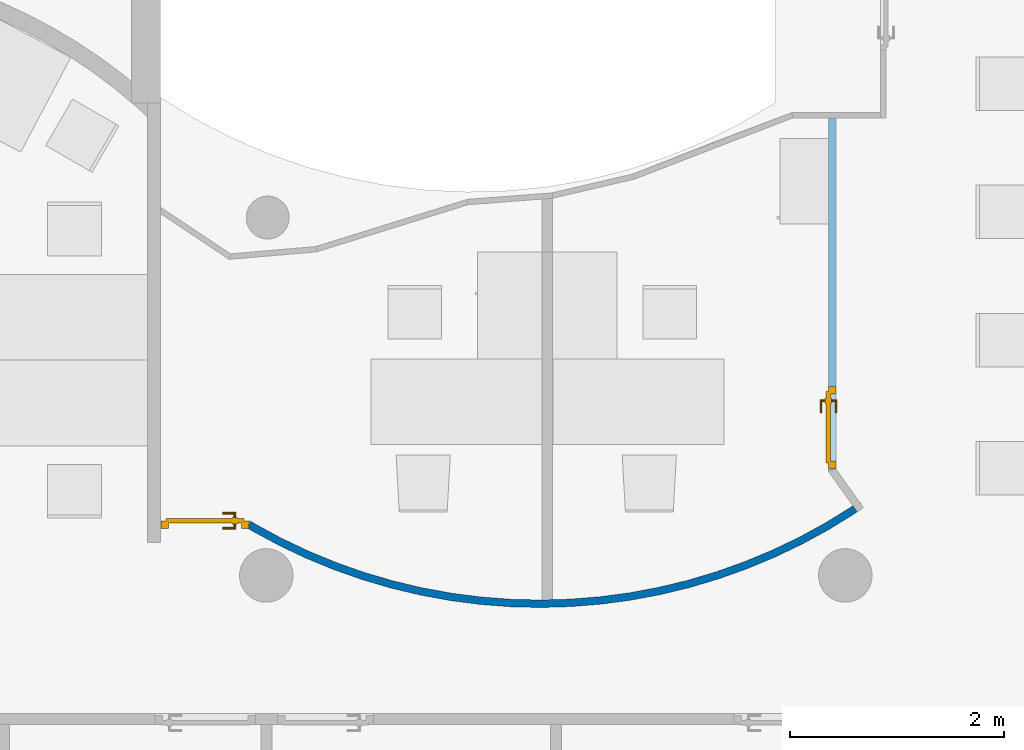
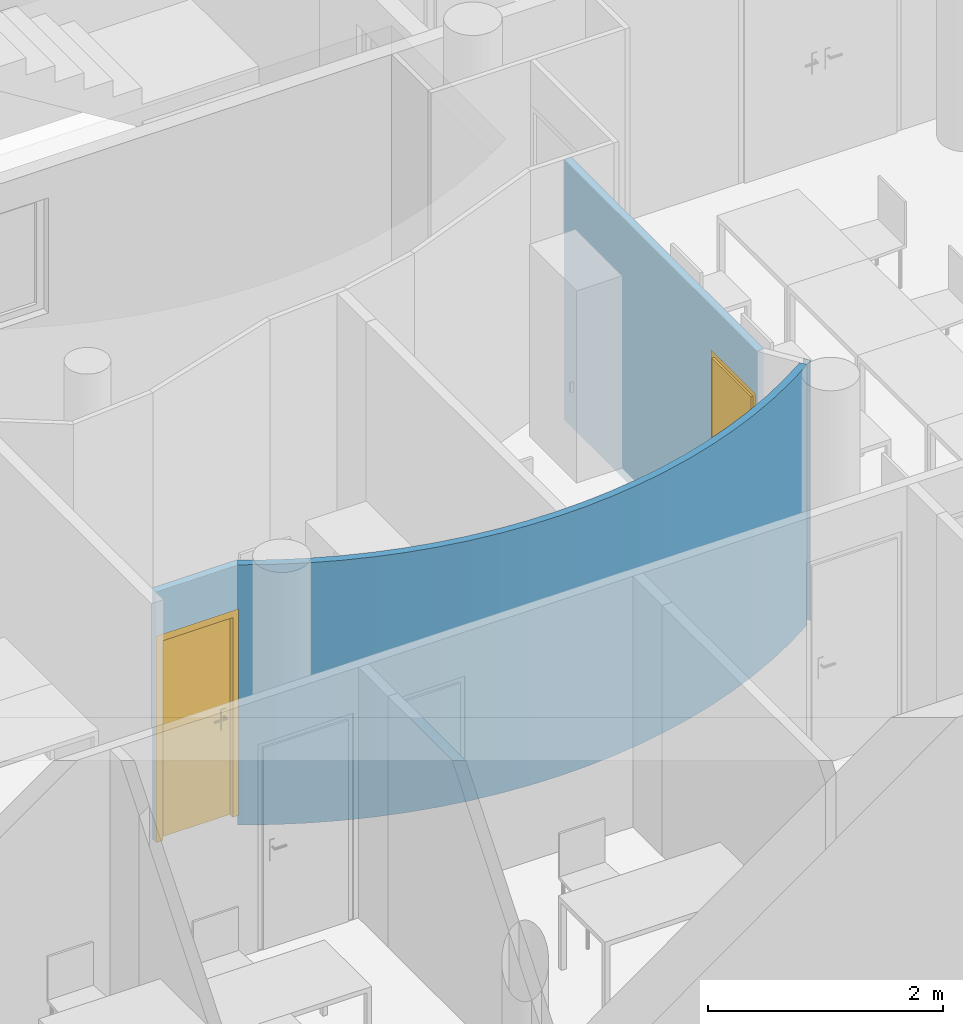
"""IFC4 building model written with IfcOpenShell, lengths in metres."""

from ifc_helpers import new_model, entity, si_unit, converted_unit, derived_unit, frame, origin, origin_with_axes, place, context, subcontext, project, spatial, polyline, outline, extrude, faceted_brep, source, transform, mapped, material, layer, layer_set, layer_usage, element, fill, save


model = new_model("IFC4")

# Units and contexts
model_context = context("Model", 3, precision=1e-05, world=origin())
body_context = subcontext(model_context, "Body", "Model", "MODEL_VIEW")
ifc_project = project(units=[si_unit("LENGTHUNIT", "METRE"), si_unit("AREAUNIT", "SQUARE_METRE"), si_unit("VOLUMEUNIT", "CUBIC_METRE"), si_unit("MASSUNIT", "GRAM", prefix="KILO"), converted_unit("PLANEANGLEUNIT", "DEGREE", entity("IfcPlaneAngleMeasure", 0.0174532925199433), si_unit("PLANEANGLEUNIT", "RADIAN"), dimensions=[0, 0, 0, 0, 0, 0, 0]), derived_unit("THERMALTRANSMITTANCEUNIT", [(si_unit("POWERUNIT", "WATT"), 1), (si_unit("THERMODYNAMICTEMPERATUREUNIT", "KELVIN"), -1), (si_unit("LENGTHUNIT", "METRE"), -2)]), derived_unit("VOLUMETRICFLOWRATEUNIT", [(si_unit("LENGTHUNIT", "METRE"), 3), (converted_unit("TIMEUNIT", "hour", entity("IfcTimeMeasure", 3600.0), si_unit("TIMEUNIT", "SECOND"), dimensions=[0, 0, 1, 0, 0, 0, 0]), -1), (si_unit("LENGTHUNIT", "METRE"), -1)])], contexts=[model_context])

# Building, storeys
building_placement = place(None, origin())
building = spatial("IfcBuilding", under=ifc_project, at=building_placement, Name="HABITATGE PLURIFAMILIAR", CompositionType="ELEMENT")
storey_1_placement = place(building_placement, frame((0.0, 0.0, 6.25)))
storey_1 = spatial("IfcBuildingStorey", under=building, at=storey_1_placement, Name="PLANTA PRIMERA", CompositionType="ELEMENT", Elevation=6.25)
storey_2_placement = place(storey_1_placement, frame((0.0, 0.0, 3.35)))
storey_2 = spatial("IfcBuildingStorey", under=storey_1, at=storey_2_placement, Name="NOU", CompositionType="PARTIAL")

# Wall, opening, door
ifc_material_1 = material()
ifc_layer_1 = layer(ifc_material_1, 0.07)
ifc_layer_set_1 = layer_set([ifc_layer_1])
ifc_layer_usage_1 = layer_usage(ifc_layer_set_1, "AXIS2", "POSITIVE", 0.0)
wall_1_placement = place(storey_2_placement, frame((410.592735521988, 18.3095984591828, -3.35), z_axis=(0.0, 0.0, 1.0), x_axis=(-1.0, 0.0, 0.0)))
wall_1 = element("IfcWall", 1, at=wall_1_placement, inside=storey_2, material=ifc_layer_usage_1, Name="Envans P1", context=body_context, shape_type="SweptSolid", body=[
    extrude(outline(polyline([(-0.845750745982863, -0.07), (0.0, -0.07), (0.0, 0.0), (-0.80460284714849, 0.0), (-0.845750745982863, -0.07)])), frame((0.845750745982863, 0.07, 0.0), z_axis=(0.0, 0.0, 1.0), x_axis=(1.0, 0.0, 0.0)), (0.0, 0.0, 1.0), 2.61),
])
opening_1_placement = place(wall_1_placement, frame((0.843483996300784, 0.07, 0.0), z_axis=(0.0, -1.0, 0.0), x_axis=(0.0, 0.0, 1.0)))
opening_1 = element("IfcOpeningElement", 2, at=opening_1_placement, cuts=wall_1, Name="Vano de puerta P1", ObjectType="Opening", context=body_context, shape_type="SweptSolid", body=[
    extrude(outline(polyline([(2.15, 0.825227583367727), (2.15, 0.0), (0.0, 0.0), (0.0, 0.825227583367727), (2.15, 0.825227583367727)])), origin_with_axes(), (0.0, 0.0, 1.0), 0.07),
])
shared_shape_1 = source(origin_with_axes(), body_context, "Body", "Brep", [
    faceted_brep([(0.825227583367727, 0.07, 2.15), (0.755227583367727, 0.07, 2.15), (0.755227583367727, 0.07, 0.0), (0.825227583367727, 0.07, 0.0), (0.825227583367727, 0.0, 0.0), (0.755227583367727, 0.0, 0.0), (0.755227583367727, 0.0, 2.15), (0.825227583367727, 0.0, 2.15)], [[[0, 1, 2, 3]], [[4, 5, 6, 7]], [[3, 4, 7, 0]], [[2, 5, 4, 3]], [[1, 6, 5, 2]], [[0, 7, 6, 1]]], orient=[[False], [False], [False], [False], [False], [False]]),
    faceted_brep([(0.07, 0.07, 2.15), (0.0, 0.07, 2.15), (0.0, 0.07, 0.0), (0.07, 0.07, 0.0), (0.07, 0.0, 0.0), (0.0, 0.0, 0.0), (0.0, 0.0, 2.15), (0.07, 0.0, 2.15)], [[[0, 1, 2, 3]], [[4, 5, 6, 7]], [[3, 4, 7, 0]], [[2, 5, 4, 3]], [[1, 6, 5, 2]], [[0, 7, 6, 1]]], orient=[[False], [False], [False], [False], [False], [False]]),
    faceted_brep([(0.755227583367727, 0.07, 2.15), (0.07, 0.07, 2.15), (0.07, 0.07, 2.08), (0.755227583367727, 0.07, 2.08), (0.755227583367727, 0.0, 2.08), (0.07, 0.0, 2.08), (0.07, 0.0, 2.15), (0.755227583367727, 0.0, 2.15)], [[[0, 1, 2, 3]], [[4, 5, 6, 7]], [[3, 4, 7, 0]], [[2, 5, 4, 3]], [[1, 6, 5, 2]], [[0, 7, 6, 1]]], orient=[[False], [False], [False], [False], [False], [False]]),
    faceted_brep([(0.775227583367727, 0.09, 2.1), (0.05, 0.09, 2.1), (0.05, 0.09, 0.0), (0.775227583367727, 0.09, 0.0), (0.775227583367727, 0.05, 0.0), (0.05, 0.05, 0.0), (0.05, 0.05, 2.1), (0.775227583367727, 0.05, 2.1)], [[[0, 1, 2, 3]], [[4, 5, 6, 7]], [[3, 4, 7, 0]], [[2, 5, 4, 3]], [[1, 6, 5, 2]], [[0, 7, 6, 1]]], orient=[[False], [False], [False], [False], [False], [False]]),
    faceted_brep([(0.715227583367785, 0.05, 1.125), (0.665227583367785, 0.05, 1.125), (0.665227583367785, 0.05, 0.91), (0.715227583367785, 0.05, 0.91), (0.715227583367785, 0.04, 0.91), (0.665227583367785, 0.04, 0.91), (0.665227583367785, 0.04, 1.125), (0.715227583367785, 0.04, 1.125)], [[[0, 1, 2, 3]], [[4, 5, 6, 7]], [[3, 4, 7, 0]], [[2, 5, 4, 3]], [[1, 6, 5, 2]], [[0, 7, 6, 1]]], orient=[[False], [False], [False], [False], [False], [False]]),
    faceted_brep([(0.690227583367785, 0.04, 1.06), (0.685227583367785, 0.04, 1.05866025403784), (0.681567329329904, 0.04, 1.055), (0.680227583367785, 0.04, 1.05), (0.681567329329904, 0.04, 1.045), (0.685227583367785, 0.04, 1.04133974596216), (0.690227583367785, 0.04, 1.04), (0.695227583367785, 0.04, 1.04133974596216), (0.698887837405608, 0.04, 1.045), (0.700227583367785, 0.04, 1.05), (0.698887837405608, 0.04, 1.055), (0.695227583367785, 0.04, 1.05866025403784), (0.695227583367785, -0.005, 1.05866025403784), (0.690227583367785, 0.0, 1.06), (0.698887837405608, -0.00866025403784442, 1.055), (0.700227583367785, -0.01, 1.05), (0.698887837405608, -0.00866025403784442, 1.045), (0.695227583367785, -0.005, 1.04133974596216), (0.690227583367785, 0.0, 1.04), (0.685227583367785, 0.005, 1.04133974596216), (0.681567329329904, 0.00866025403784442, 1.045), (0.680227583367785, 0.01, 1.05), (0.681567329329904, 0.00866025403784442, 1.055), (0.685227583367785, 0.005, 1.05866025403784), (0.575227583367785, 0.0, 1.06), (0.575227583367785, -0.005, 1.05866025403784), (0.575227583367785, -0.00866025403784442, 1.055), (0.575227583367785, -0.01, 1.05), (0.575227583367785, -0.00866025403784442, 1.045), (0.575227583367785, -0.005, 1.04133974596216), (0.575227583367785, 0.0, 1.04), (0.575227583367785, 0.005, 1.04133974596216), (0.575227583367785, 0.00866025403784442, 1.045), (0.575227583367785, 0.01, 1.05), (0.575227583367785, 0.00866025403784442, 1.055), (0.575227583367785, 0.005, 1.05866025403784)], [[[0, 1, 2, 3, 4, 5, 6, 7, 8, 9, 10, 11]], [[0, 11, 12, 13]], [[11, 10, 14, 12]], [[10, 9, 15, 14]], [[9, 8, 16, 15]], [[8, 7, 17, 16]], [[7, 6, 18, 17]], [[6, 5, 19, 18]], [[5, 4, 20, 19]], [[4, 3, 21, 20]], [[3, 2, 22, 21]], [[2, 1, 23, 22]], [[1, 0, 13, 23]], [[24, 25, 26, 27, 28, 29, 30, 31, 32, 33, 34, 35]], [[13, 12, 25, 24]], [[12, 14, 26, 25]], [[14, 15, 27, 26]], [[15, 16, 28, 27]], [[16, 17, 29, 28]], [[17, 18, 30, 29]], [[18, 19, 31, 30]], [[19, 20, 32, 31]], [[20, 21, 33, 32]], [[21, 22, 34, 33]], [[22, 23, 35, 34]], [[23, 13, 24, 35]]], orient=[[False], [False], [False], [False], [False], [False], [False], [False], [False], [False], [False], [False], [False], [False], [False], [False], [False], [False], [False], [False], [False], [False], [False], [False], [False], [False]]),
    faceted_brep([(0.715227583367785, 0.09, 1.125), (0.715227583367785, 0.09, 0.91), (0.665227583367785, 0.09, 0.91), (0.665227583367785, 0.09, 1.125), (0.715227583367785, 0.1, 0.91), (0.715227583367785, 0.1, 1.125), (0.665227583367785, 0.1, 1.125), (0.665227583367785, 0.1, 0.91)], [[[0, 1, 2, 3]], [[4, 5, 6, 7]], [[1, 0, 5, 4]], [[2, 1, 4, 7]], [[3, 2, 7, 6]], [[0, 3, 6, 5]]], orient=[[False], [False], [False], [False], [False], [False]]),
    faceted_brep([(0.690227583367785, 0.1, 1.06), (0.695227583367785, 0.1, 1.05866025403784), (0.698887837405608, 0.1, 1.055), (0.700227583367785, 0.1, 1.05), (0.698887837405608, 0.1, 1.045), (0.695227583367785, 0.1, 1.04133974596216), (0.690227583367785, 0.1, 1.04), (0.685227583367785, 0.1, 1.04133974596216), (0.681567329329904, 0.1, 1.045), (0.680227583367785, 0.1, 1.05), (0.681567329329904, 0.1, 1.055), (0.685227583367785, 0.1, 1.05866025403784), (0.690227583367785, 0.14, 1.06), (0.695227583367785, 0.145, 1.05866025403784), (0.698887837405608, 0.148660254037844, 1.055), (0.700227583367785, 0.15, 1.05), (0.698887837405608, 0.148660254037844, 1.045), (0.695227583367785, 0.145, 1.04133974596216), (0.690227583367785, 0.14, 1.04), (0.685227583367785, 0.135, 1.04133974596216), (0.681567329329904, 0.131339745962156, 1.045), (0.680227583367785, 0.13, 1.05), (0.681567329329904, 0.131339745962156, 1.055), (0.685227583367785, 0.135, 1.05866025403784), (0.575227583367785, 0.14, 1.06), (0.575227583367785, 0.135, 1.05866025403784), (0.575227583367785, 0.131339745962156, 1.055), (0.575227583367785, 0.13, 1.05), (0.575227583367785, 0.131339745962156, 1.045), (0.575227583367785, 0.135, 1.04133974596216), (0.575227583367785, 0.14, 1.04), (0.575227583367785, 0.145, 1.04133974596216), (0.575227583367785, 0.148660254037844, 1.045), (0.575227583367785, 0.15, 1.05), (0.575227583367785, 0.148660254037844, 1.055), (0.575227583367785, 0.145, 1.05866025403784)], [[[0, 1, 2, 3, 4, 5, 6, 7, 8, 9, 10, 11]], [[0, 12, 13, 1]], [[1, 13, 14, 2]], [[2, 14, 15, 3]], [[3, 15, 16, 4]], [[4, 16, 17, 5]], [[5, 17, 18, 6]], [[6, 18, 19, 7]], [[7, 19, 20, 8]], [[8, 20, 21, 9]], [[9, 21, 22, 10]], [[10, 22, 23, 11]], [[11, 23, 12, 0]], [[24, 25, 26, 27, 28, 29, 30, 31, 32, 33, 34, 35]], [[12, 24, 35, 13]], [[13, 35, 34, 14]], [[14, 34, 33, 15]], [[15, 33, 32, 16]], [[16, 32, 31, 17]], [[17, 31, 30, 18]], [[18, 30, 29, 19]], [[19, 29, 28, 20]], [[20, 28, 27, 21]], [[21, 27, 26, 22]], [[22, 26, 25, 23]], [[23, 25, 24, 12]]], orient=[[False], [False], [False], [False], [False], [False], [False], [False], [False], [False], [False], [False], [False], [False], [False], [False], [False], [False], [False], [False], [False], [False], [False], [False], [False], [False]]),
])
door_1_placement = place(opening_1_placement, frame((0.0, 0.0, 0.0), z_axis=(1.0, 0.0, 0.0), x_axis=(0.0, 1.0, 0.0)))
door_1 = element("IfcDoor", 3, at=door_1_placement, inside=storey_2, Name="Porta P1", OperationType="USERDEFINED", OverallHeight=2.15, OverallWidth=0.82523, PredefinedType="DOOR", context=body_context, shape_type="MappedRepresentation", body=[
    mapped(shared_shape_1, transform((0.0, 0.0, 0.0), x_axis=(1.0, 0.0, 0.0), y_axis=(0.0, 1.0, 0.0), z_axis=(0.0, 0.0, 1.0), scale=1.0)),
])
fill(opening_1, door_1)

ifc_material_2 = material()
ifc_layer_2 = layer(ifc_material_2, 0.0700000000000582)
ifc_layer_set_2 = layer_set([ifc_layer_2])
ifc_layer_usage_2 = layer_usage(ifc_layer_set_2, "AXIS2", "POSITIVE", 0.0)
wall_2_placement = place(storey_2_placement, frame((416.048400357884, 18.7948357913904, -3.45), z_axis=(0.0, 0.0, 1.0), x_axis=(0.0, 1.0, 0.0)))
wall_2 = element("IfcWall", 4, at=wall_2_placement, inside=storey_2, material=ifc_layer_usage_2, Name="Envans P1", context=body_context, shape_type="SweptSolid", body=[
    extrude(outline(polyline([(0.0223693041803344, -0.0700000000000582), (3.29699337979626, -0.0700000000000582), (3.29699337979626, 0.0), (0.0, 0.0), (0.0223693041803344, -0.0700000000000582)])), frame((-0.0223693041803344, 0.0700000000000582, 0.0), z_axis=(0.0, 0.0, 1.0), x_axis=(1.0, 0.0, 0.0)), (0.0, 0.0, 1.0), 2.71),
])
opening_2_placement = place(wall_2_placement, frame((0.770436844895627, 0.0700000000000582, 0.1), z_axis=(0.0, -1.0, 0.0), x_axis=(0.0, 0.0, 1.0)))
opening_2 = element("IfcOpeningElement", 5, at=opening_2_placement, cuts=wall_2, Name="Vano de puerta P1", ObjectType="Opening", context=body_context, shape_type="SweptSolid", body=[
    extrude(outline(polyline([(2.15, 0.7675111), (2.15, 0.0), (0.0, 0.0), (0.0, 0.7675111), (2.15, 0.7675111)])), origin_with_axes(), (0.0, 0.0, 1.0), 0.0700000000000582),
])
shared_shape_2 = source(origin_with_axes(), body_context, "Body", "Brep", [
    faceted_brep([(0.767511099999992, 0.0700000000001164, 2.15), (0.697511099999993, 0.0700000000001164, 2.15), (0.697511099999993, 0.0700000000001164, 0.0), (0.767511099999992, 0.0700000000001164, 0.0), (0.767511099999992, 0.0, 0.0), (0.697511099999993, 0.0, 0.0), (0.697511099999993, 0.0, 2.15), (0.767511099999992, 0.0, 2.15)], [[[0, 1, 2, 3]], [[4, 5, 6, 7]], [[3, 4, 7, 0]], [[2, 5, 4, 3]], [[1, 6, 5, 2]], [[0, 7, 6, 1]]], orient=[[False], [False], [False], [False], [False], [False]]),
    faceted_brep([(0.0699999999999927, 0.0700000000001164, 2.15), (0.0, 0.0700000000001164, 2.15), (0.0, 0.0700000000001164, 0.0), (0.0699999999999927, 0.0700000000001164, 0.0), (0.0699999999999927, 0.0, 0.0), (0.0, 0.0, 0.0), (0.0, 0.0, 2.15), (0.0699999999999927, 0.0, 2.15)], [[[0, 1, 2, 3]], [[4, 5, 6, 7]], [[3, 4, 7, 0]], [[2, 5, 4, 3]], [[1, 6, 5, 2]], [[0, 7, 6, 1]]], orient=[[False], [False], [False], [False], [False], [False]]),
    faceted_brep([(0.697511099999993, 0.0700000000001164, 2.15), (0.0699999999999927, 0.0700000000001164, 2.15), (0.0699999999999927, 0.0700000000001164, 2.08), (0.697511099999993, 0.0700000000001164, 2.08), (0.697511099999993, 0.0, 2.08), (0.0699999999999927, 0.0, 2.08), (0.0699999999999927, 0.0, 2.15), (0.697511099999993, 0.0, 2.15)], [[[0, 1, 2, 3]], [[4, 5, 6, 7]], [[3, 4, 7, 0]], [[2, 5, 4, 3]], [[1, 6, 5, 2]], [[0, 7, 6, 1]]], orient=[[False], [False], [False], [False], [False], [False]]),
    faceted_brep([(0.717511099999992, 0.0900000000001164, 2.1), (0.0499999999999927, 0.0900000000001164, 2.1), (0.0499999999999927, 0.0900000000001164, 0.0), (0.717511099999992, 0.0900000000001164, 0.0), (0.717511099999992, 0.0500000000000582, 0.0), (0.0499999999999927, 0.0500000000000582, 0.0), (0.0499999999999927, 0.0500000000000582, 2.1), (0.717511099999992, 0.0500000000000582, 2.1)], [[[0, 1, 2, 3]], [[4, 5, 6, 7]], [[3, 4, 7, 0]], [[2, 5, 4, 3]], [[1, 6, 5, 2]], [[0, 7, 6, 1]]], orient=[[False], [False], [False], [False], [False], [False]]),
    faceted_brep([(0.657511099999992, 0.0500000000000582, 1.125), (0.607511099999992, 0.0500000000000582, 1.125), (0.607511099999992, 0.0500000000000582, 0.91), (0.657511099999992, 0.0500000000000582, 0.91), (0.657511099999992, 0.0400000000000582, 0.91), (0.607511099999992, 0.0400000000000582, 0.91), (0.607511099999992, 0.0400000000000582, 1.125), (0.657511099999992, 0.0400000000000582, 1.125)], [[[0, 1, 2, 3]], [[4, 5, 6, 7]], [[3, 4, 7, 0]], [[2, 5, 4, 3]], [[1, 6, 5, 2]], [[0, 7, 6, 1]]], orient=[[False], [False], [False], [False], [False], [False]]),
    faceted_brep([(0.632511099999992, 0.0400000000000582, 1.06), (0.627511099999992, 0.0400000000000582, 1.05866025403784), (0.623850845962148, 0.0400000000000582, 1.055), (0.622511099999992, 0.0400000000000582, 1.05), (0.623850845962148, 0.0400000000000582, 1.045), (0.627511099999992, 0.0400000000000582, 1.04133974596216), (0.632511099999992, 0.0400000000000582, 1.04), (0.637511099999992, 0.0400000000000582, 1.04133974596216), (0.641171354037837, 0.0400000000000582, 1.045), (0.642511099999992, 0.0400000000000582, 1.05), (0.641171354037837, 0.0400000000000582, 1.055), (0.637511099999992, 0.0400000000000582, 1.05866025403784), (0.637511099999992, -0.00499999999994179, 1.05866025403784), (0.632511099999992, 0.0, 1.06), (0.641171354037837, -0.00866025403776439, 1.055), (0.642511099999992, -0.00999999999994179, 1.05), (0.641171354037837, -0.00866025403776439, 1.045), (0.637511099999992, -0.00499999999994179, 1.04133974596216), (0.632511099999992, 0.0, 1.04), (0.627511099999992, 0.00500000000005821, 1.04133974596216), (0.623850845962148, 0.00866025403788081, 1.045), (0.622511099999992, 0.0100000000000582, 1.05), (0.623850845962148, 0.00866025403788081, 1.055), (0.627511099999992, 0.00500000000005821, 1.05866025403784), (0.517511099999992, 0.0, 1.06), (0.517511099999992, -0.00499999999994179, 1.05866025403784), (0.517511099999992, -0.00866025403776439, 1.055), (0.517511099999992, -0.00999999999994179, 1.05), (0.517511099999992, -0.00866025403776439, 1.045), (0.517511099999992, -0.00499999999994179, 1.04133974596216), (0.517511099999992, 0.0, 1.04), (0.517511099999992, 0.00500000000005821, 1.04133974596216), (0.517511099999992, 0.00866025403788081, 1.045), (0.517511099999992, 0.0100000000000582, 1.05), (0.517511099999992, 0.00866025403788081, 1.055), (0.517511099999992, 0.00500000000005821, 1.05866025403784)], [[[0, 1, 2, 3, 4, 5, 6, 7, 8, 9, 10, 11]], [[0, 11, 12, 13]], [[11, 10, 14, 12]], [[10, 9, 15, 14]], [[9, 8, 16, 15]], [[8, 7, 17, 16]], [[7, 6, 18, 17]], [[6, 5, 19, 18]], [[5, 4, 20, 19]], [[4, 3, 21, 20]], [[3, 2, 22, 21]], [[2, 1, 23, 22]], [[1, 0, 13, 23]], [[24, 25, 26, 27, 28, 29, 30, 31, 32, 33, 34, 35]], [[13, 12, 25, 24]], [[12, 14, 26, 25]], [[14, 15, 27, 26]], [[15, 16, 28, 27]], [[16, 17, 29, 28]], [[17, 18, 30, 29]], [[18, 19, 31, 30]], [[19, 20, 32, 31]], [[20, 21, 33, 32]], [[21, 22, 34, 33]], [[22, 23, 35, 34]], [[23, 13, 24, 35]]], orient=[[False], [False], [False], [False], [False], [False], [False], [False], [False], [False], [False], [False], [False], [False], [False], [False], [False], [False], [False], [False], [False], [False], [False], [False], [False], [False]]),
    faceted_brep([(0.657511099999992, 0.0900000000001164, 1.125), (0.657511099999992, 0.0900000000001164, 0.91), (0.607511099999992, 0.0900000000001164, 0.91), (0.607511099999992, 0.0900000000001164, 1.125), (0.657511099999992, 0.100000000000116, 0.91), (0.657511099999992, 0.100000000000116, 1.125), (0.607511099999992, 0.100000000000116, 1.125), (0.607511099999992, 0.100000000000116, 0.91)], [[[0, 1, 2, 3]], [[4, 5, 6, 7]], [[1, 0, 5, 4]], [[2, 1, 4, 7]], [[3, 2, 7, 6]], [[0, 3, 6, 5]]], orient=[[False], [False], [False], [False], [False], [False]]),
    faceted_brep([(0.632511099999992, 0.100000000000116, 1.06), (0.637511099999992, 0.100000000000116, 1.05866025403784), (0.641171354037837, 0.100000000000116, 1.055), (0.642511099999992, 0.100000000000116, 1.05), (0.641171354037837, 0.100000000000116, 1.045), (0.637511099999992, 0.100000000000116, 1.04133974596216), (0.632511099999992, 0.100000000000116, 1.04), (0.627511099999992, 0.100000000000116, 1.04133974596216), (0.623850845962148, 0.100000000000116, 1.045), (0.622511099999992, 0.100000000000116, 1.05), (0.623850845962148, 0.100000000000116, 1.055), (0.627511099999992, 0.100000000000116, 1.05866025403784), (0.632511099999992, 0.140000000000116, 1.06), (0.637511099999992, 0.145000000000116, 1.05866025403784), (0.641171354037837, 0.148660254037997, 1.055), (0.642511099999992, 0.150000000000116, 1.05), (0.641171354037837, 0.148660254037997, 1.045), (0.637511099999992, 0.145000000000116, 1.04133974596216), (0.632511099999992, 0.140000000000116, 1.04), (0.627511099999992, 0.135000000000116, 1.04133974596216), (0.623850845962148, 0.131339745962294, 1.045), (0.622511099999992, 0.130000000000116, 1.05), (0.623850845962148, 0.131339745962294, 1.055), (0.627511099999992, 0.135000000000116, 1.05866025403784), (0.517511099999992, 0.140000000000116, 1.06), (0.517511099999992, 0.135000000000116, 1.05866025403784), (0.517511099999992, 0.131339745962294, 1.055), (0.517511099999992, 0.130000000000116, 1.05), (0.517511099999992, 0.131339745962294, 1.045), (0.517511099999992, 0.135000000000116, 1.04133974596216), (0.517511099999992, 0.140000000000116, 1.04), (0.517511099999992, 0.145000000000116, 1.04133974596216), (0.517511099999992, 0.148660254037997, 1.045), (0.517511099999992, 0.150000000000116, 1.05), (0.517511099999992, 0.148660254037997, 1.055), (0.517511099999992, 0.145000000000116, 1.05866025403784)], [[[0, 1, 2, 3, 4, 5, 6, 7, 8, 9, 10, 11]], [[0, 12, 13, 1]], [[1, 13, 14, 2]], [[2, 14, 15, 3]], [[3, 15, 16, 4]], [[4, 16, 17, 5]], [[5, 17, 18, 6]], [[6, 18, 19, 7]], [[7, 19, 20, 8]], [[8, 20, 21, 9]], [[9, 21, 22, 10]], [[10, 22, 23, 11]], [[11, 23, 12, 0]], [[24, 25, 26, 27, 28, 29, 30, 31, 32, 33, 34, 35]], [[12, 24, 35, 13]], [[13, 35, 34, 14]], [[14, 34, 33, 15]], [[15, 33, 32, 16]], [[16, 32, 31, 17]], [[17, 31, 30, 18]], [[18, 30, 29, 19]], [[19, 29, 28, 20]], [[20, 28, 27, 21]], [[21, 27, 26, 22]], [[22, 26, 25, 23]], [[23, 25, 24, 12]]], orient=[[False], [False], [False], [False], [False], [False], [False], [False], [False], [False], [False], [False], [False], [False], [False], [False], [False], [False], [False], [False], [False], [False], [False], [False], [False], [False]]),
])
door_2_placement = place(opening_2_placement, frame((0.0, 0.7675111, 0.07), z_axis=(1.0, 0.0, 0.0), x_axis=(0.0, -1.0, 0.0)))
door_2 = element("IfcDoor", 6, at=door_2_placement, inside=storey_2, Name="Porta P1", OperationType="USERDEFINED", OverallHeight=2.15, OverallWidth=0.76751, PredefinedType="DOOR", context=body_context, shape_type="MappedRepresentation", body=[
    mapped(shared_shape_2, transform((0.0, 0.0, 0.0), x_axis=(1.0, 0.0, 0.0), y_axis=(0.0, 1.0, 0.0), z_axis=(0.0, 0.0, 1.0), scale=1.0)),
])
fill(opening_2, door_2)

# Wall
wall_3_placement = place(storey_2_placement, frame((410.554237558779, 17.5008097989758, -3.45)))
element("IfcWall", 7, at=wall_3_placement, inside=storey_2, Name="Envans P1", context=body_context, shape_type="Brep", body=[
    faceted_brep([(0.00738910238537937, 0.738788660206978, 2.25), (0.0202415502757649, 0.738788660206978, 2.25), (0.0202415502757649, 0.777731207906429, 2.25), (0.0, 0.743296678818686, 2.25), (0.0, 0.743296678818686, 0.1), (0.0202415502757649, 0.777731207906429, 0.1), (0.0202415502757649, 0.738788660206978, 0.1), (0.00738910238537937, 0.738788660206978, 0.1), (1.0739198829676, 0.260166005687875, 0.0), (1.0739198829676, 0.260166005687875, 2.71), (1.34427798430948, 0.180662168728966, 2.71), (1.34427798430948, 0.180662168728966, 0.0), (0.808093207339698, 0.353710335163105, 0.0), (0.808093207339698, 0.353710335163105, 2.71), (0.547526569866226, 0.461038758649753, 0.0), (0.547526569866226, 0.461038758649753, 2.71), (0.292934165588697, 0.581857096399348, 0.0), (0.292934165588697, 0.581857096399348, 2.71), (0.0450138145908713, 0.715834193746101, 0.0), (0.0450138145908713, 0.715834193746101, 2.71), (0.0, 0.743296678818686, 2.71), (0.0, 0.743296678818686, 0.0), (0.0354778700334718, 0.803650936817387, 0.0), (0.0354778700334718, 0.803650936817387, 2.71), (0.0799060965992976, 0.776545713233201, 0.0), (0.0799060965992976, 0.776545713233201, 2.71), (0.324601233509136, 0.644311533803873, 0.0), (0.324601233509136, 0.644311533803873, 2.71), (0.575881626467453, 0.52506493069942, 0.0), (0.575881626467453, 0.52506493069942, 2.71), (0.833058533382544, 0.41913275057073, 0.0), (0.833058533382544, 0.41913275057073, 2.71), (1.0954270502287, 0.326805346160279, 0.0), (1.0954270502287, 0.326805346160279, 2.71), (1.36226804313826, 0.248335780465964, 0.0), (1.36226804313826, 0.248335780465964, 2.71), (1.63285011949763, 0.183939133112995, 0.0), (1.63285011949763, 0.183939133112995, 2.71), (1.90643163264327, 0.133791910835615, 0.0), (1.90643163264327, 0.133791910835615, 2.71), (2.18226271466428, 0.098031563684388, 0.0), (2.18226271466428, 0.098031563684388, 2.71), (2.45958733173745, 0.0767561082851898, 0.0), (2.45958733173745, 0.0767561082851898, 2.71), (2.73764535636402, 0.0700238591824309, 0.0), (2.73764535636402, 0.0700238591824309, 2.71), (3.01567465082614, 0.077853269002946, 0.0), (3.01567465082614, 0.077853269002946, 2.71), (3.29291315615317, 0.100222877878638, 0.0), (3.29291315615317, 0.100222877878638, 2.71), (3.5686009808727, 0.137071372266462, 0.0), (3.5686009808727, 0.137071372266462, 2.71), (3.84198248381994, 0.188297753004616, 0.0), (3.84198248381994, 0.188297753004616, 2.71), (4.11230834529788, 0.253761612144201, 0.0), (4.11230834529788, 0.253761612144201, 2.71), (4.37883762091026, 0.333283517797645, 0.0), (4.37883762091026, 0.333283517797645, 2.71), (4.64083977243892, 0.426645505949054, 0.0), (4.64083977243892, 0.426645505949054, 2.71), (4.89759667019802, 0.533591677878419, 0.0), (4.89759667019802, 0.533591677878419, 2.71), (5.14840456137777, 0.653828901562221, 0.0), (5.14840456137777, 0.653828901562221, 2.71), (5.39257599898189, 0.787027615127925, 0.0), (5.39257599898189, 0.787027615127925, 2.71), (5.62944172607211, 0.932822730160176, 0.0), (5.62944172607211, 0.932822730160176, 2.71), (5.65351992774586, 0.949441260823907, 0.0), (5.65351992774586, 0.949441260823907, 2.71), (5.69411743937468, 0.89240730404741, 0.0), (5.69411743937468, 0.89240730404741, 2.71), (5.66769532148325, 0.874171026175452, 0.0), (5.66769532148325, 0.874171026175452, 2.71), (5.42770757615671, 0.726454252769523, 0.0), (5.42770757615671, 0.726454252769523, 2.71), (5.18031782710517, 0.591499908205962, 0.0), (5.18031782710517, 0.591499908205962, 2.71), (4.92620415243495, 0.469677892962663, 0.0), (4.92620415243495, 0.469677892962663, 2.71), (4.66606306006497, 0.361322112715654, 0.0), (4.66606306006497, 0.361322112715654, 2.71), (4.40060757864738, 0.266729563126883, 0.0), (4.40060757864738, 0.266729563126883, 2.71), (4.13056530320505, 0.186159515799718, 0.0), (4.13056530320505, 0.186159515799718, 2.71), (3.85667640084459, 0.119832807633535, 0.0), (3.85667640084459, 0.119832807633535, 2.71), (3.57969158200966, 0.0679312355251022, 0.0), (3.57969158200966, 0.0679312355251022, 2.71), (3.3003700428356, 0.0305970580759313, 0.0), (3.3003700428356, 0.0305970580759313, 2.71), (3.01947738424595, 0.00793260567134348, 0.0), (3.01947738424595, 0.00793260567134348, 2.71), (2.73778351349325, 0.0, 0.0), (2.73778351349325, 0.0, 2.71), (2.45606053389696, 0.00682098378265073, 0.0), (2.45606053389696, 0.00682098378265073, 2.71), (2.17508062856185, 0.0283768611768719, 0.0), (2.17508062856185, 0.0283768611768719, 2.71), (1.89561394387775, 0.0646085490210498, 0.0), (1.89561394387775, 0.0646085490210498, 2.71), (1.61842647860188, 0.115416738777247, 0.0), (1.61842647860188, 0.115416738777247, 2.71), (5.74379492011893, 0.926694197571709, 0.0), (5.74379492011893, 0.926694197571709, 2.71), (5.75173149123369, 0.932171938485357, 2.71), (5.75173149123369, 0.932171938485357, 0.0), (5.75165288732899, 0.932287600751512, 0.0), (5.75165288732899, 0.932287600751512, 2.71), (5.71238466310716, 0.990069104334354, 0.0), (5.71238466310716, 0.990069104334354, 2.71), (5.71113647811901, 0.989207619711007, 2.71), (5.71113647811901, 0.989207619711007, 0.0)], [[[0, 1, 2, 3]], [[4, 5, 6, 7]], [[0, 7, 6, 1]], [[1, 6, 5, 2]], [[8, 9, 10, 11]], [[12, 13, 9, 8]], [[14, 15, 13, 12]], [[16, 17, 15, 14]], [[18, 19, 17, 16]], [[3, 20, 19, 18, 21, 4, 7, 0]], [[2, 5, 4, 21, 22, 23, 20, 3]], [[24, 25, 23, 22]], [[26, 27, 25, 24]], [[28, 29, 27, 26]], [[30, 31, 29, 28]], [[32, 33, 31, 30]], [[34, 35, 33, 32]], [[36, 37, 35, 34]], [[38, 39, 37, 36]], [[40, 41, 39, 38]], [[42, 43, 41, 40]], [[44, 45, 43, 42]], [[46, 47, 45, 44]], [[48, 49, 47, 46]], [[50, 51, 49, 48]], [[52, 53, 51, 50]], [[54, 55, 53, 52]], [[56, 57, 55, 54]], [[58, 59, 57, 56]], [[60, 61, 59, 58]], [[62, 63, 61, 60]], [[64, 65, 63, 62]], [[66, 67, 65, 64]], [[68, 69, 67, 66]], [[70, 71, 69, 68]], [[72, 73, 71, 70]], [[74, 75, 73, 72]], [[76, 77, 75, 74]], [[78, 79, 77, 76]], [[80, 81, 79, 78]], [[82, 83, 81, 80]], [[84, 85, 83, 82]], [[86, 87, 85, 84]], [[88, 89, 87, 86]], [[90, 91, 89, 88]], [[92, 93, 91, 90]], [[94, 95, 93, 92]], [[96, 97, 95, 94]], [[98, 99, 97, 96]], [[100, 101, 99, 98]], [[102, 103, 101, 100]], [[11, 10, 103, 102]], [[10, 9, 13, 15, 17, 19, 20, 23, 25, 27, 29, 31, 33, 35, 37, 39, 41, 43, 45, 47, 49, 51, 53, 55, 57, 59, 61, 63, 65, 67, 69, 71, 73, 75, 77, 79, 81, 83, 85, 87, 89, 91, 93, 95, 97, 99, 101, 103]], [[11, 102, 100, 98, 96, 94, 92, 90, 88, 86, 84, 82, 80, 78, 76, 74, 72, 70, 68, 66, 64, 62, 60, 58, 56, 54, 52, 50, 48, 46, 44, 42, 40, 38, 36, 34, 32, 30, 28, 26, 24, 22, 21, 18, 16, 14, 12, 8]], [[104, 105, 106, 107]], [[108, 109, 105, 104]], [[107, 106, 109, 108]], [[106, 105, 109]], [[107, 108, 104]], [[110, 111, 112, 113]], [[108, 109, 111, 110]], [[113, 112, 109, 108]], [[112, 111, 109]], [[113, 108, 110]]], orient=[[False], [False], [False], [False], [False], [False], [False], [False], [False], [False], [False], [False], [False], [False], [False], [False], [False], [False], [False], [False], [False], [False], [False], [False], [False], [False], [False], [False], [False], [False], [False], [False], [False], [False], [False], [False], [False], [False], [False], [False], [False], [False], [False], [False], [False], [False], [False], [False], [False], [False], [False], [False], [False], [False], [False], [False], [False], [False], [False], [False], [False], [False], [False], [False]]),
])

save(model, "model.ifc")
